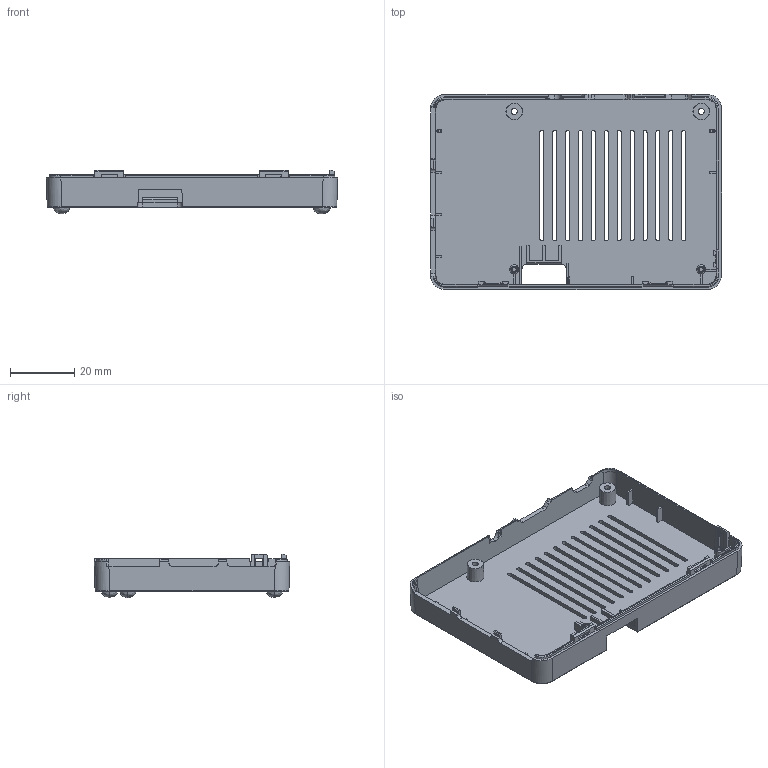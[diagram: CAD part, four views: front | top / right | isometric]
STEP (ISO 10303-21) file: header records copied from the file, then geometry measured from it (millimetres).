
FILE_DESCRIPTION (( 'STEP AP214' ), '1' );
FILE_NAME ('CASE_4_BOTTOM_COVER.STEP', '2015-07-20T08:06:53', ( '' ), ( '' ), 'SwSTEP 2.0', 'SolidWorks 2013', '' );
FILE_SCHEMA (( 'AUTOMOTIVE_DESIGN' ));
Length unit declared in the file: millimetre
Products named in the file (1): CASE_4_BOTTOM_COVER
Bounding box: 90.3 x 60.6 x 13.5 mm (x, y, z)
Volume: 10873.5 mm3; surface area: 16797.5 mm2
Topology: 1 solids, 1 shells, 489 faces, 1418 edges, 936 vertices
Faces by surface type: plane 282, bspline 71, cylinder 60, cone 48, torus 28
Entity records: 18190 total; most frequent: CARTESIAN_POINT 5653, ORIENTED_EDGE 2820, DIRECTION 2172, EDGE_CURVE 1410, VERTEX_POINT 936, LINE 932, VECTOR 932, AXIS2_PLACEMENT_3D 620
